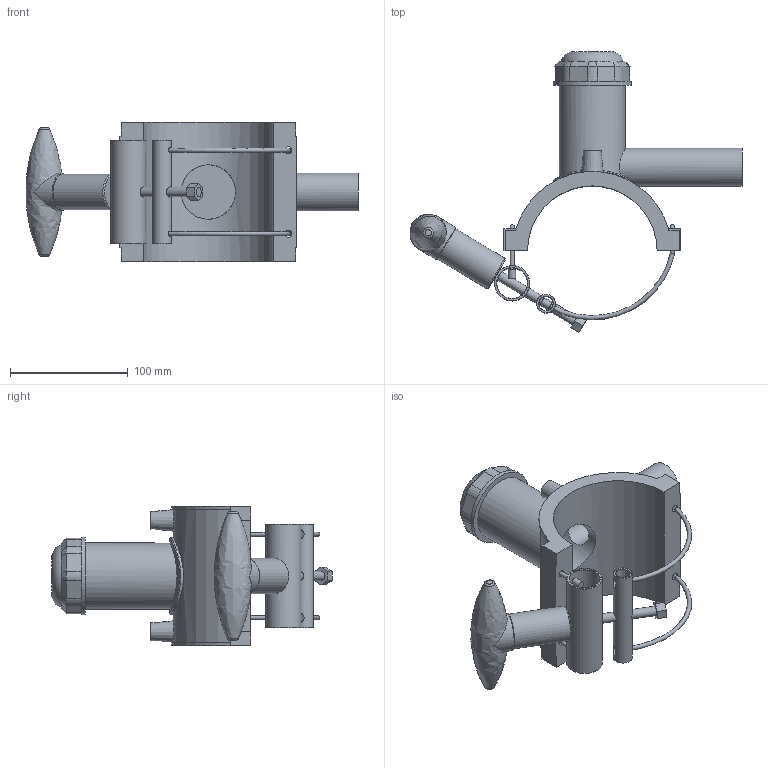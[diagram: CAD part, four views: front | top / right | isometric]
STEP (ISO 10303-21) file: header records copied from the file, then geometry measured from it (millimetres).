
FILE_DESCRIPTION(/* description */ ('PLASSON TAPPING SADDLE 110x32'),/* implementation_level */ '2;1');
FILE_NAME(/* name */ 'C:\Dropbox\99-16-3568-Processing\ElectroFusion Fittings\4963Q4 (new clamping)\4963Q4110032.ipt.stp',/* time_stamp */ '2021-03-07T12:50:25+02:00',/* author */ ('KIM'),/* organization */ (''),/* preprocessor_version */ 'ST-DEVELOPER v17.2',/* originating_system */ 'Autodesk Inventor 2019',/* authorisation */ '');
FILE_SCHEMA (('AUTOMOTIVE_DESIGN { 1 0 10303 214 3 1 1 }'));
Length unit declared in the file: millimetre
Products named in the file (1): 4963Q4110032
Bounding box: 281.68 x 238.16 x 118 mm (x, y, z)
Volume: 567724 mm3; surface area: 158483.4 mm2
Topology: 6 solids, 6 shells, 180 faces, 462 edges, 306 vertices
Faces by surface type: plane 87, cylinder 58, cone 19, torus 10, bspline 6
Full cylindrical faces by diameter (mm): 3.6 x5, 4 x4, 4.6 x2, 6 x8, 8 x2, 8.5 x2, 9 x2, 10 x2, 12 x1, 16 x1, 25.6 x1, 26 x1, 30 x2, 32 x2, 46.2 x1, 56.1 x1, 66 x1
Entity records: 7249 total; most frequent: CARTESIAN_POINT 2792, ORIENTED_EDGE 924, DIRECTION 881, EDGE_CURVE 462, AXIS2_PLACEMENT_3D 338, VERTEX_POINT 306, EDGE_LOOP 230, LINE 205
